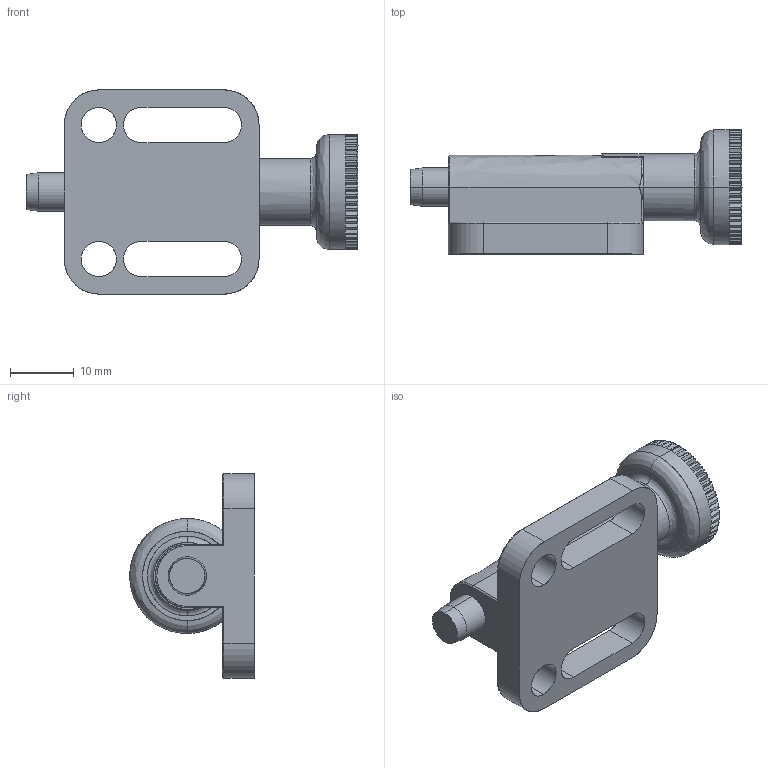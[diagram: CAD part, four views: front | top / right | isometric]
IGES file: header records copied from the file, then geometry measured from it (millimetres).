
Start section: SolidWorks IGES file using analytic representation for surfaces
Global section: file name: C:\HEMSIDA\cad\SLDPRT_2007\gn417\\gn417c_6.igs; native system: SolidWorks 2007; preprocessor: SolidWorks 2007; author: Administrator; date: 070919.153016; units: millimetre
Bounding box: 52 x 19.5 x 32 mm (x, y, z)
Surface area: 5760.3 mm2 (no closed solid volume)
Topology: 0 solids, 0 shells, 286 faces, 3090 edges, 3088 vertices
Faces by surface type: bspline 245, revolution 41
